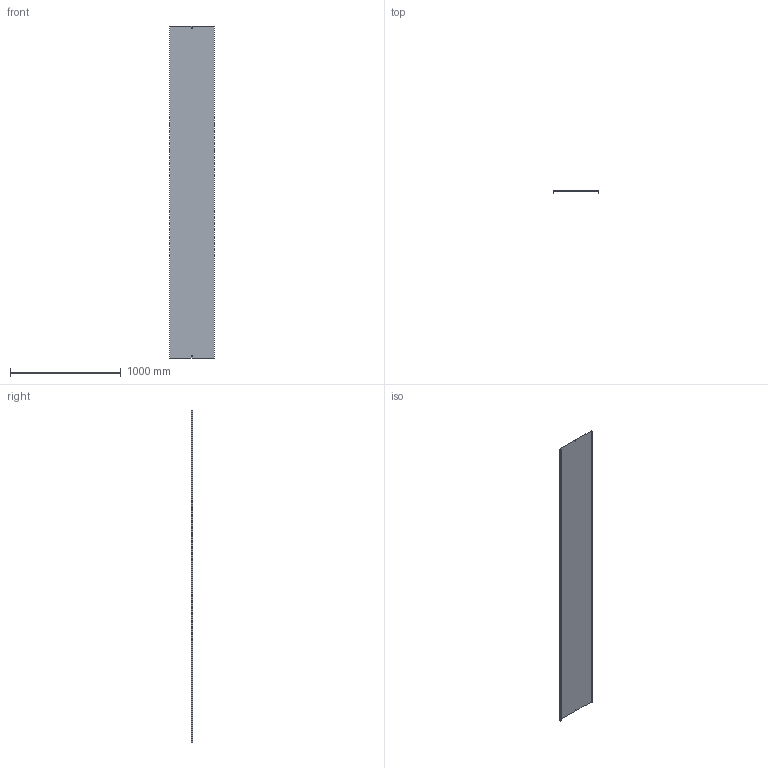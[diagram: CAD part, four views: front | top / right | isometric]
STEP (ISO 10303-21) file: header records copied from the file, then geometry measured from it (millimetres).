
FILE_DESCRIPTION (( 'STEP AP214' ), '1' );
FILE_NAME ('OCF_400.step', '2025-07-16T09:10:07', ( '' ), ( '' ), 'SwSTEP 2.0', 'SolidWorks 2023', '' );
FILE_SCHEMA (( 'AUTOMOTIVE_DESIGN' ));
Length unit declared in the file: millimetre
Products named in the file (1): OCF_400
Bounding box: 402 x 17 x 3000 mm (x, y, z)
Volume: 1301916 mm3; surface area: 2610752 mm2
Topology: 1 solids, 1 shells, 18 faces, 48 edges, 32 vertices
Faces by surface type: plane 18
Entity records: 583 total; most frequent: CARTESIAN_POINT 99, ORIENTED_EDGE 96, DIRECTION 86, LINE 48, VECTOR 48, EDGE_CURVE 48, VERTEX_POINT 32, EDGE_LOOP 22
